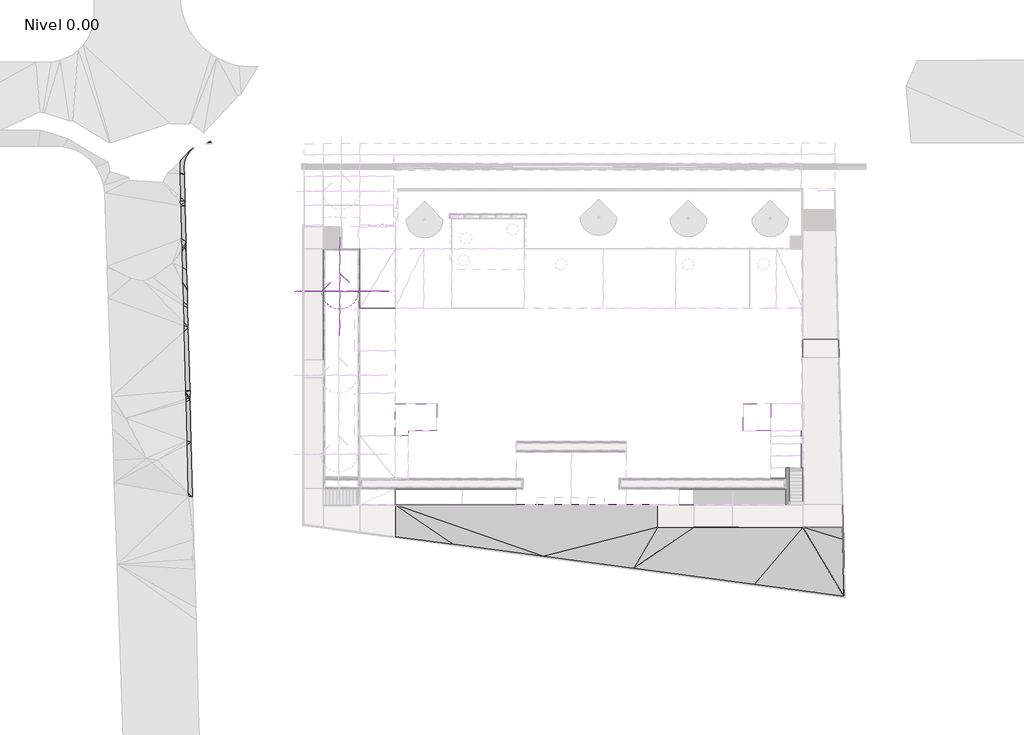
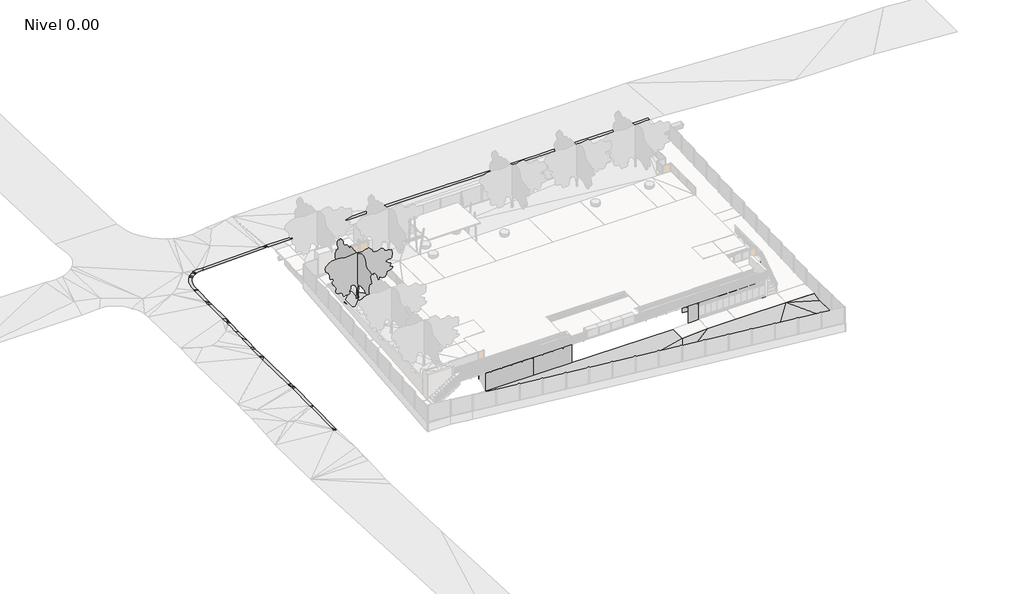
# One storey, part 8 of 10: 19 proxies, 1 geographic element.
"""IFC4 building model written with IfcOpenShell, lengths in millimetres."""

from ifc_helpers import new_model, si_unit, origin, place, context, project, spatial, triangles, transform, mapped, element, save
from components import m_rpc_tree_deciduous_31fc5fb8

model = new_model("IFC4")

# Units and contexts
model_context = context("Model", 3, world=origin())
ifc_project = project(units=[si_unit("LENGTHUNIT", "METRE", prefix="MILLI")], contexts=[model_context])

# Site, building, storey
site = spatial("IfcSite", under=ifc_project)
building = spatial("IfcBuilding", under=site)
storey = spatial("IfcBuildingStorey", under=building, Name="Nivel 0.00", Elevation=0.0)

# Proxies
placement = place(None, origin())
element("IfcBuildingElementProxy", 1, Name="Building Element Proxy", at=placement, inside=storey, context=model_context, shape_type="Tessellation", body=[
    triangles([(-22137.5720032, -3508.259697, 119.2509151), (-22137.5720032, -3508.259697, -86.1539891), (-22137.5720032, -905.6664488, 379.6572041), (-22137.5720032, -905.6664488, 76.357058), (-22137.5720032, 446.4089799, 514.9410613), (-22137.5720032, 446.4089799, 141.3746737), (-22137.5720032, 2267.6967567, 697.172707), (-22137.5720032, 2267.6967567, 296.9855787), (-22137.5720032, 2497.1635643, 720.1323521), (-22137.5720032, 2497.1635643, 305.5340758), (-22137.5720032, 2800.6900955, 750.5021553), (-22137.5720032, 2800.6900955, 333.9799049), (-22137.5720032, 5786.4485458, 1049.246493), (-22137.5720032, 5786.4485458, 593.9467767)], [[1, 4, 2], [1, 3, 4], [3, 6, 4], [3, 5, 6], [5, 8, 6], [5, 7, 8], [7, 10, 8], [7, 9, 10], [9, 12, 10], [9, 11, 12], [11, 14, 12], [11, 13, 14]], closed=False),
    triangles([(-22137.5720032, -3508.259697, 119.2509151), (-22137.5720032, -3508.259697, -86.1539891), (-22137.5720032, -905.6664488, 379.6572041), (-22137.5720032, -905.6664488, 76.357058), (-22137.5720032, 446.4089799, 514.9410613), (-22137.5720032, 446.4089799, 141.3746737), (-22137.5720032, 2267.6967567, 697.172707), (-22137.5720032, 2267.6967567, 296.9855787), (-22137.5720032, 2497.1635643, 720.1323521), (-22137.5720032, 2497.1635643, 305.5340758), (-22137.5720032, 2800.6900955, 750.5021553), (-22137.5720032, 2800.6900955, 333.9799049), (-22137.5720032, 5786.4485458, 1049.246493), (-22137.5720032, 5786.4485458, 593.9467767)], [[1, 4, 2], [1, 3, 4], [3, 6, 4], [3, 5, 6], [5, 8, 6], [5, 7, 8], [7, 10, 8], [7, 9, 10], [9, 12, 10], [9, 11, 12], [11, 14, 12], [11, 13, 14]], closed=False),
    triangles([(-22137.5720032, 5786.4921478, 1049.2509258), (-23758.2800537, 5786.4921478, 1049.2509258), (-23758.2800537, -3508.259697, 119.2509151), (-22137.5720032, -3508.259697, 119.2509151)], [[2, 3, 1], [4, 1, 3]], closed=False),
])
element("IfcBuildingElementProxy", 2, Name="Building Element Proxy", at=placement, inside=storey, context=model_context, shape_type="Tessellation", body=[
    triangles([(-10487.4726471, -14354.5645111, 1349.9821335), (-10487.4726471, -14354.5645111, -708.8708302), (-10859.558075, -14354.5645111, 1349.9821335), (-10859.558075, -14354.5645111, -708.8708302), (-12842.4986664, -14354.5645111, 1349.9821335), (-12842.4986664, -14354.5645111, -291.2762252), (-13097.231955, -14354.5645111, 1349.9821335), (-13097.231955, -14354.5645111, -405.7781387), (-14168.7026001, -14354.5645111, 1349.9821335), (-14168.7026001, -14354.5645111, -166.0200989), (-15946.7963928, -14354.5645111, 1349.9821335), (-15946.7963928, -14354.5645111, -144.749177), (-16105.5192627, -14354.5645111, 1349.9821335), (-16105.5192627, -14354.5645111, -149.0310741), (-16105.5192627, -14702.1095764, 1355.3350044), (-16105.5192627, -14702.1095764, -166.0200989), (-16105.5192627, -14715.8006012, 1355.5458927), (-16105.5192627, -14715.8006012, -166.0200989), (-16105.5192627, -14732.9344391, 1355.8098301), (-16105.5192627, -14732.9344391, -166.0200989), (-16105.5192627, -15653.0782745, 1369.9820755), (-16105.5192627, -15653.0782745, -850.00473), (-15529.8718414, -15653.0782745, 1369.9820755), (-15529.8718414, -15653.0782745, -900.0000069), (-14652.3102905, -15653.0782745, 1369.9820755), (-14652.3102905, -15653.0782745, -900.0000069), (-13764.4493683, -15653.0782745, 1369.9820755), (-13764.4493683, -15653.0782745, -900.0000069), (-12715.0087738, -15653.0782745, 1369.9820755), (-12715.0087738, -15653.0782745, -900.0000069), (-10487.4726471, -15653.0782745, 1369.9820755), (-10487.4726471, -15653.0782745, -900.0000069)], [[1, 4, 2], [1, 3, 4], [3, 6, 4], [3, 5, 6], [5, 8, 6], [5, 7, 8], [7, 10, 8], [7, 9, 10], [9, 12, 10], [9, 11, 12], [11, 14, 12], [11, 13, 14], [13, 16, 14], [13, 15, 16], [15, 18, 16], [15, 17, 18], [17, 20, 18], [17, 19, 20], [19, 22, 20], [19, 21, 22], [21, 24, 22], [21, 23, 24], [23, 26, 24], [23, 25, 26], [25, 28, 26], [25, 27, 28], [27, 30, 28], [27, 29, 30], [29, 32, 30], [29, 31, 32]], closed=False),
    triangles([(-10487.4726471, -14354.5645111, 1349.9821335), (-10487.4726471, -14354.5645111, -708.8708302), (-10859.558075, -14354.5645111, 1349.9821335), (-10859.558075, -14354.5645111, -708.8708302), (-12842.4986664, -14354.5645111, 1349.9821335), (-12842.4986664, -14354.5645111, -291.2762252), (-13097.231955, -14354.5645111, 1349.9821335), (-13097.231955, -14354.5645111, -405.7781387), (-14168.7026001, -14354.5645111, 1349.9821335), (-14168.7026001, -14354.5645111, -166.0200989), (-15946.7963928, -14354.5645111, 1349.9821335), (-15946.7963928, -14354.5645111, -144.749177), (-16105.5192627, -14354.5645111, 1349.9821335), (-16105.5192627, -14354.5645111, -149.0310741), (-16105.5192627, -14702.1095764, 1355.3350044), (-16105.5192627, -14702.1095764, -166.0200989), (-16105.5192627, -14715.8006012, 1355.5458927), (-16105.5192627, -14715.8006012, -166.0200989), (-16105.5192627, -14732.9344391, 1355.8098301), (-16105.5192627, -14732.9344391, -166.0200989), (-16105.5192627, -15653.0782745, 1369.9820755), (-16105.5192627, -15653.0782745, -850.00473), (-15529.8718414, -15653.0782745, 1369.9820755), (-15529.8718414, -15653.0782745, -900.0000069), (-14652.3102905, -15653.0782745, 1369.9820755), (-14652.3102905, -15653.0782745, -900.0000069), (-13764.4493683, -15653.0782745, 1369.9820755), (-13764.4493683, -15653.0782745, -900.0000069), (-12715.0087738, -15653.0782745, 1369.9820755), (-12715.0087738, -15653.0782745, -900.0000069), (-10487.4726471, -15653.0782745, 1369.9820755), (-10487.4726471, -15653.0782745, -900.0000069)], [[1, 4, 2], [1, 3, 4], [3, 6, 4], [3, 5, 6], [5, 8, 6], [5, 7, 8], [7, 10, 8], [7, 9, 10], [9, 12, 10], [9, 11, 12], [11, 14, 12], [11, 13, 14], [13, 16, 14], [13, 15, 16], [15, 18, 16], [15, 17, 18], [17, 20, 18], [17, 19, 20], [19, 22, 20], [19, 21, 22], [21, 24, 22], [21, 23, 24], [23, 26, 24], [23, 25, 26], [25, 28, 26], [25, 27, 28], [27, 30, 28], [27, 29, 30], [29, 32, 30], [29, 31, 32]], closed=False),
    triangles([(-10487.4726471, -14354.5645111, 1349.9821335), (-16105.5192627, -14354.5645111, 1349.9821335), (-16105.5192627, -15653.0782745, 1369.9820755), (-10487.4726471, -15653.0782745, 1369.9820755)], [[2, 3, 4], [4, 1, 2]], closed=False),
])
element("IfcBuildingElementProxy", 3, Name="Building Element Proxy", at=placement, inside=storey, context=model_context, shape_type="Tessellation", body=[
    triangles([(-10487.4726471, -15653.0782745, 1369.9820755), (-10487.4726471, -15653.0782745, -900.0000069), (-8952.5465698, -15653.0782745, 1369.9820755), (-8952.5465698, -15653.0782745, -900.0000069), (-8559.6159027, -15653.0782745, 1369.9820755), (-8559.6159027, -15653.0782745, -865.2527092), (-7664.4903076, -15653.0782745, 1369.9820755), (-7664.4903076, -15653.0782745, -900.0000069), (-6552.0779755, -15653.0782745, 1369.9820755), (-6552.0779755, -15653.0782745, -900.0000069), (-5969.7251495, -15653.0782745, 1369.9820755), (-5969.7251495, -15653.0782745, -900.0000069)], [[1, 4, 2], [1, 3, 4], [3, 6, 4], [3, 5, 6], [5, 8, 6], [5, 7, 8], [7, 10, 8], [7, 9, 10], [9, 12, 10], [9, 11, 12]], closed=False),
    triangles([(-10487.4726471, -14354.5645111, 1349.9821335), (-10487.4726471, -14354.5645111, -708.8708302), (-10451.6097198, -14354.5645111, 1349.9821335), (-10451.6097198, -14354.5645111, -708.8708302), (-9718.3073868, -14354.5645111, 1349.9821335), (-9718.3073868, -14354.5645111, -677.5093723), (-9627.9809235, -14354.5645111, 1349.9821335), (-9627.9809235, -14354.5645111, -666.0201027), (-8884.8239594, -14354.5645111, 1349.9821335), (-8884.8239594, -14354.5645111, -368.3865621), (-8453.6671371, -14354.5645111, 1349.9821335), (-8453.6671371, -14354.5645111, -371.3625069), (-7304.015799, -14354.5645111, 1349.9821335), (-7304.015799, -14354.5645111, -526.0554265), (-5969.7251495, -14354.5645111, 1349.9821335), (-5969.7251495, -14354.5645111, -759.8179384), (-5969.7251495, -14354.6621796, 1349.9835869), (-5969.7251495, -14354.6621796, -759.838286)], [[1, 4, 2], [1, 3, 4], [3, 6, 4], [3, 5, 6], [5, 8, 6], [5, 7, 8], [7, 10, 8], [7, 9, 10], [9, 12, 10], [9, 11, 12], [11, 14, 12], [11, 13, 14], [13, 16, 14], [13, 15, 16], [15, 18, 16], [15, 17, 18]], closed=False),
    triangles([(-5969.7251495, -14354.6621796, 1349.9835869), (-5969.7251495, -14354.6621796, -759.838286), (-5969.7251495, -14354.5645111, 1349.9821335), (-5969.7251495, -14354.5645111, -759.8179384)], [[1, 4, 2], [1, 3, 4]], closed=False),
    triangles([(-10487.4726471, -15653.0782745, 1369.9820755), (-10487.4726471, -15653.0782745, -900.0000069), (-8952.5465698, -15653.0782745, 1369.9820755), (-8952.5465698, -15653.0782745, -900.0000069), (-8559.6159027, -15653.0782745, 1369.9820755), (-8559.6159027, -15653.0782745, -865.2527092), (-7664.4903076, -15653.0782745, 1369.9820755), (-7664.4903076, -15653.0782745, -900.0000069), (-6552.0779755, -15653.0782745, 1369.9820755), (-6552.0779755, -15653.0782745, -900.0000069), (-5969.7251495, -15653.0782745, 1369.9820755), (-5969.7251495, -15653.0782745, -900.0000069)], [[1, 4, 2], [1, 3, 4], [3, 6, 4], [3, 5, 6], [5, 8, 6], [5, 7, 8], [7, 10, 8], [7, 9, 10], [9, 12, 10], [9, 11, 12]], closed=False),
    triangles([(-5969.7251495, -14354.5645111, 1349.9821335), (-5969.7251495, -14354.5645111, -759.8179384), (-7304.015799, -14354.5645111, 1349.9821335), (-7304.015799, -14354.5645111, -526.0554265), (-8453.6671371, -14354.5645111, 1349.9821335), (-8453.6671371, -14354.5645111, -371.3625069), (-8884.8239594, -14354.5645111, 1349.9821335), (-8884.8239594, -14354.5645111, -368.3865621), (-9627.9809235, -14354.5645111, 1349.9821335), (-9627.9809235, -14354.5645111, -666.0201027), (-9718.3073868, -14354.5645111, 1349.9821335), (-9718.3073868, -14354.5645111, -677.5093723), (-10451.6097198, -14354.5645111, 1349.9821335), (-10451.6097198, -14354.5645111, -708.8708302), (-10487.4726471, -14354.5645111, 1349.9821335), (-10487.4726471, -14354.5645111, -708.8708302)], [[1, 4, 2], [1, 3, 4], [3, 6, 4], [3, 5, 6], [5, 8, 6], [5, 7, 8], [7, 10, 8], [7, 9, 10], [9, 12, 10], [9, 11, 12], [11, 14, 12], [11, 13, 14], [13, 16, 14], [13, 15, 16]], closed=False),
    triangles([(-5969.7251495, -14354.5645111, 1349.9821335), (-10487.4726471, -14354.5645111, 1349.9821335), (-10487.4726471, -15653.0782745, 1369.9820755), (-5969.7251495, -15653.0782745, 1369.9820755)], [[2, 3, 4], [4, 1, 2]], closed=False),
])
element("IfcBuildingElementProxy", 4, Name="Building Element Proxy", at=placement, inside=storey, context=model_context, shape_type="Tessellation", body=[
    triangles([(7686.8261536, -15653.0154877, 1369.9820755), (7686.8261536, -15653.0154877, -889.3929508), (8587.2653778, -15653.0154877, 1369.9820755), (8587.2653778, -15653.0154877, -787.3379883), (8877.6092834, -15653.0154877, 1369.9820755), (8877.6092834, -15653.0154877, -812.8557621)], [[1, 4, 2], [1, 3, 4], [3, 6, 4], [3, 5, 6]], closed=False),
    triangles([(12146.1748901, -14354.6621796, 1349.9821335), (12146.1748901, -14354.6621796, -812.3078304), (11887.0825653, -14354.6621796, 1349.9821335), (11887.0825653, -14354.6621796, -749.0817478), (10692.206662, -14354.6621796, 1349.9821335), (10692.206662, -14354.6621796, -530.9046218), (7852.3974426, -14354.6621796, 1349.9821335), (7852.3974426, -14354.6621796, -267.955919), (7686.8261536, -14354.6621796, 1349.9821335), (7686.8261536, -14354.6621796, -258.4661276)], [[1, 4, 2], [1, 3, 4], [3, 6, 4], [3, 5, 6], [5, 8, 6], [5, 7, 8], [7, 10, 8], [7, 9, 10]], closed=False),
    triangles([(7686.8261536, -15653.0154877, 1369.9820755), (7686.8261536, -15653.0154877, -889.3929508), (8587.2653778, -15653.0154877, 1369.9820755), (8587.2653778, -15653.0154877, -787.3379883), (8877.6092834, -15653.0154877, 1369.9820755), (8877.6092834, -15653.0154877, -812.8557621)], [[1, 4, 2], [1, 3, 4], [3, 6, 4], [3, 5, 6]], closed=False),
    triangles([(12146.1748901, -14354.6621796, 1349.9821335), (12146.1748901, -14354.6621796, -812.3078304), (11887.0825653, -14354.6621796, 1349.9821335), (11887.0825653, -14354.6621796, -749.0817478), (10692.206662, -14354.6621796, 1349.9821335), (10692.206662, -14354.6621796, -530.9046218), (7852.3974426, -14354.6621796, 1349.9821335), (7852.3974426, -14354.6621796, -267.955919), (7686.8261536, -14354.6621796, 1349.9821335), (7686.8261536, -14354.6621796, -258.4661276)], [[1, 4, 2], [1, 3, 4], [3, 6, 4], [3, 5, 6], [5, 8, 6], [5, 7, 8], [7, 10, 8], [7, 9, 10]], closed=False),
    triangles([(12146.1748901, -14354.6621796, 1349.9821335), (7686.8261536, -14354.6621796, 1349.9821335), (7686.8261536, -15653.0154877, 1369.9820755), (12146.1748901, -15653.0154877, 1369.9820755)], [[2, 3, 4], [4, 1, 2]], closed=False),
])
element("IfcBuildingElementProxy", 5, Name="Building Element Proxy", at=placement, inside=storey, context=model_context, shape_type="Tessellation", body=[
    triangles([(12146.1748901, -14354.6621796, 1349.9821335), (12146.1748901, -14354.6621796, -812.3078304), (13551.349585, -14354.6621796, 1349.9821335), (13551.349585, -14354.6621796, -1155.2118999), (13580.1129456, -14354.6621796, 1349.9821335), (13580.1129456, -14354.6621796, -1159.7034863), (13596.8933167, -14354.6621796, 1349.9821335), (13596.8933167, -14354.6621796, -1162.0368467), (13631.7958374, -14354.6621796, 1349.9821335), (13631.7958374, -14354.6621796, -1166.0201065), (16605.5236267, -14354.6621796, 1349.9821335), (16605.5236267, -14354.6621796, -1239.7416241), (16605.5236267, -15653.0154877, 1369.9820755), (16605.5236267, -15653.0154877, -1347.4879543)], [[1, 4, 2], [1, 3, 4], [3, 6, 4], [3, 5, 6], [5, 8, 6], [5, 7, 8], [7, 10, 8], [7, 9, 10], [9, 12, 10], [9, 11, 12], [11, 14, 12], [11, 13, 14]], closed=False),
    triangles([(16605.5236267, -15653.0154877, 1369.9820755), (16605.5236267, -15653.0154877, -1347.4879543), (16605.5236267, -14354.6621796, 1349.9821335), (16605.5236267, -14354.6621796, -1239.7416241)], [[1, 4, 2], [1, 3, 4]], closed=False),
    triangles([(16605.5236267, -14354.6621796, 1349.9821335), (16605.5236267, -14354.6621796, -1239.7416241), (13631.7958374, -14354.6621796, 1349.9821335), (13631.7958374, -14354.6621796, -1166.0201065), (13596.8933167, -14354.6621796, 1349.9821335), (13596.8933167, -14354.6621796, -1162.0368467), (13580.1129456, -14354.6621796, 1349.9821335), (13580.1129456, -14354.6621796, -1159.7034863), (13551.349585, -14354.6621796, 1349.9821335), (13551.349585, -14354.6621796, -1155.2118999), (12146.1748901, -14354.6621796, 1349.9821335), (12146.1748901, -14354.6621796, -812.3078304)], [[1, 4, 2], [1, 3, 4], [3, 6, 4], [3, 5, 6], [5, 8, 6], [5, 7, 8], [7, 10, 8], [7, 9, 10], [9, 12, 10], [9, 11, 12]], closed=False),
    triangles([(16605.5236267, -14354.6621796, 1349.9821335), (12146.1748901, -14354.6621796, 1349.9821335), (12146.1748901, -15653.0154877, 1369.9820755), (16605.5236267, -15653.0154877, 1369.9820755)], [[2, 3, 4], [4, 1, 2]], closed=False),
])
element("IfcBuildingElementProxy", 6, Name="Building Element Proxy", at=placement, inside=storey, context=model_context, shape_type="Tessellation", body=[
    triangles([(21420.8552856, -17533.633255, -840.0192204), (21420.8552856, -17533.633255, -1683.9922691), (21410.8977539, -17147.5486816, -833.860076), (21410.8977539, -17147.5486816, -1666.0201103), (21374.4162598, -15732.9292145, -811.2930668), (21374.4162598, -15732.9292145, -1536.5242355), (21372.3582458, -15653.0782745, -810.019162), (21372.3582458, -15653.0782745, -1525.9484276)], [[1, 4, 2], [1, 3, 4], [3, 6, 4], [3, 5, 6], [5, 8, 6], [5, 7, 8]], closed=False),
    triangles([(18005.5393341, -17533.633255, -840.0192204), (18005.5393341, -17533.633255, -1538.2623562), (18348.2800415, -17533.633255, -840.0192204), (18348.2800415, -17533.633255, -1546.7592213), (20298.7098267, -17533.633255, -840.0192204), (20298.7098267, -17533.633255, -1656.9116547), (20528.6492798, -17533.633255, -840.0192204), (20528.6492798, -17533.633255, -1666.0201103), (21320.8218567, -17533.633255, -840.0192204), (21320.8218567, -17533.633255, -1681.9772758)], [[1, 4, 2], [1, 3, 4], [3, 6, 4], [3, 5, 6], [5, 8, 6], [5, 7, 8], [7, 10, 8], [7, 9, 10]], closed=False),
    triangles([(21420.8552856, -17533.633255, -840.0192204), (21420.8552856, -17533.633255, -1683.9922691), (21410.8977539, -17147.5486816, -833.860076), (21410.8977539, -17147.5486816, -1666.0201103), (21374.4162598, -15732.9292145, -811.2930668), (21374.4162598, -15732.9292145, -1536.5242355), (21372.3582458, -15653.0782745, -810.019162), (21372.3582458, -15653.0782745, -1525.9484276)], [[1, 4, 2], [1, 3, 4], [3, 6, 4], [3, 5, 6], [5, 8, 6], [5, 7, 8]], closed=False),
    triangles([(18005.5393341, -17533.633255, -840.0192204), (18005.5393341, -17533.633255, -1538.2623562), (18348.2800415, -17533.633255, -840.0192204), (18348.2800415, -17533.633255, -1546.7592213), (20298.7098267, -17533.633255, -840.0192204), (20298.7098267, -17533.633255, -1656.9116547), (20528.6492798, -17533.633255, -840.0192204), (20528.6492798, -17533.633255, -1666.0201103), (21320.8218567, -17533.633255, -840.0192204), (21320.8218567, -17533.633255, -1681.9772758)], [[1, 4, 2], [1, 3, 4], [3, 6, 4], [3, 5, 6], [5, 8, 6], [5, 7, 8], [7, 10, 8], [7, 9, 10]], closed=False),
    triangles([(18005.5393341, -15653.0782745, -810.019162), (18005.5393341, -17533.633255, -840.0192204), (21420.8552856, -17533.633255, -840.0192204), (21372.3582458, -15653.0782745, -810.019162)], [[1, 2, 4], [3, 4, 2]], closed=False),
])
element("IfcBuildingElementProxy", 7, Name="Building Element Proxy", at=placement, inside=storey, context=model_context, shape_type="Tessellation", body=[
    triangles([(21014.9265747, -1793.0786339, 269.8403606), (21014.9265747, -1793.0786339, 269.4469799), (19880.7399902, -1793.0786339, 269.8403606), (19880.7399902, -1793.0786339, 269.4469799), (18077.2093781, -1793.0786339, 269.8403606), (18077.2093781, -1793.0786339, 269.4469799), (18005.5253815, -1793.0786339, 269.8403606), (18005.5253815, -1793.0786339, 269.4469799)], [[1, 4, 2], [1, 3, 4], [3, 6, 4], [3, 5, 6], [5, 8, 6], [5, 7, 8]], closed=False),
    triangles([(18005.5253815, -1793.0786339, 269.8403606), (18005.5253815, -1793.0786339, 219.3381017), (18005.5253815, -3293.0786453, 269.8403606), (18005.5253815, -3293.0786453, 150.7614826)], [[1, 4, 2], [1, 3, 4]], closed=False),
    triangles([(21014.9265747, -1793.0786339, 269.8403606), (21014.9265747, -1793.0786339, 214.6862781), (21053.6079346, -3293.0786453, 269.8403606), (21053.6079346, -3293.0786453, 143.0949902)], [[1, 4, 2], [1, 3, 4]], closed=False),
    triangles([(21053.6079346, -3293.0786453, 269.8403606), (21053.6079346, -3293.0786453, 143.0949902), (21014.9265747, -1793.0786339, 269.8403606), (21014.9265747, -1793.0786339, 214.6862781)], [[1, 4, 2], [1, 3, 4]], closed=False),
    triangles([(18005.5253815, -1793.0786339, 269.8403606), (18005.5253815, -1793.0786339, 219.3381017), (18005.5253815, -3293.0786453, 269.8403606), (18005.5253815, -3293.0786453, 150.7614826)], [[1, 4, 2], [1, 3, 4]], closed=False),
    triangles([(21014.9265747, -1793.0786339, 269.8403606), (21014.9265747, -1793.0786339, 269.4469799), (18005.5253815, -1793.0786339, 269.8403606), (18005.5253815, -1793.0786339, 269.4469799)], [[1, 4, 2], [1, 3, 4]], closed=False),
    triangles([(21014.9265747, -1793.0786339, 269.8403606), (18005.5253815, -1793.0786339, 269.8403606), (18005.5253815, -3293.0786453, 269.8403606), (21053.6079346, -3293.0786453, 269.8403606)], [[2, 3, 1], [4, 1, 3]], closed=False),
])
element("IfcBuildingElementProxy", 8, Name="Building Element Proxy", at=placement, inside=storey, context=model_context, shape_type="Tessellation", body=[
    triangles([(-19057.5704681, 5786.4921478, 1349.9972488), (-19057.5704681, 5786.4921478, 552.9142522), (-19057.5704681, 5226.675737, 1346.6458546), (-19057.5704681, 5226.675737, 531.3664759), (-19057.5704681, 775.3352325, 1319.9971905), (-19057.5704681, 775.3352325, 334.0525386), (-19057.3821075, 775.6549078, 1319.9990799), (-19057.3821075, 775.6549078, 334.0703427)], [[1, 4, 2], [1, 3, 4], [3, 6, 4], [3, 5, 6], [5, 8, 6], [5, 7, 8]], closed=False),
    triangles([(-16105.2367218, 5786.4921478, 1349.9972488), (-16105.2367218, 5786.4921478, 615.0475599), (-16105.3192749, 5786.4921478, 1349.9972488), (-16105.3192749, 5786.4921478, 615.0458158)], [[1, 4, 2], [1, 3, 4]], closed=False),
    triangles([(-19057.5704681, 5786.4921478, 1349.9972488), (-19057.5704681, 5786.4921478, 552.9142522), (-19057.5704681, 5226.675737, 1346.6458546), (-19057.5704681, 5226.675737, 531.3664759), (-19057.5704681, 775.3352325, 1319.9971905), (-19057.5704681, 775.3352325, 334.0525386), (-19057.3821075, 775.6549078, 1319.9990799), (-19057.3821075, 775.6549078, 334.0703427)], [[1, 4, 2], [1, 3, 4], [3, 6, 4], [3, 5, 6], [5, 8, 6], [5, 7, 8]], closed=False),
    triangles([(-16105.2367218, 5786.4921478, 1349.9972488), (-16105.2367218, 5786.4921478, 615.0475599), (-16105.3192749, 5786.4921478, 1349.9972488), (-16105.3192749, 5786.4921478, 615.0458158)], [[1, 4, 2], [1, 3, 4]], closed=False),
    triangles([(-16105.2367218, 5786.4921478, 1349.9972488), (-19057.5704681, 5786.4921478, 1349.9972488), (-19057.5704681, 775.3352325, 1319.9971905)], [[2, 3, 1]], closed=False),
])
element("IfcBuildingElementProxy", 9, Name="Building Element Proxy", at=placement, inside=storey, context=model_context, shape_type="Tessellation", body=[
    triangles([(-16105.4704285, 775.6549078, 1349.9921619), (-16105.4704285, 775.6549078, 407.8792096), (-16115.8721191, 775.6549078, 1349.8864998), (-16115.8721191, 775.6549078, 407.3703017), (-17484.6281067, 775.6549078, 1335.9767384), (-17484.6281067, 775.6549078, 364.9277616), (-17783.0436127, 775.6549078, 1332.94422), (-17783.0436127, 775.6549078, 358.6204067), (-19057.3821075, 775.6549078, 1319.993993), (-19057.3821075, 775.6549078, 334.0703427)], [[1, 4, 2], [1, 3, 4], [3, 6, 4], [3, 5, 6], [5, 8, 6], [5, 7, 8], [7, 10, 8], [7, 9, 10]], closed=False),
    triangles([(-19057.3821075, 775.6549078, 1319.993993), (-19057.3821075, 775.6549078, 334.0703427), (-17783.0436127, 775.6549078, 1332.94422), (-17783.0436127, 775.6549078, 358.6204067), (-17484.6281067, 775.6549078, 1335.9767384), (-17484.6281067, 775.6549078, 364.9277616), (-16115.8721191, 775.6549078, 1349.8864998), (-16115.8721191, 775.6549078, 407.3703017), (-16105.4704285, 775.6549078, 1349.9921619), (-16105.4704285, 775.6549078, 407.8792096)], [[1, 4, 2], [1, 3, 4], [3, 6, 4], [3, 5, 6], [5, 8, 6], [5, 7, 8], [7, 10, 8], [7, 9, 10]], closed=False),
    triangles([(-16105.2367218, 5786.4921478, 1349.9944874), (-19057.3821075, 775.6549078, 1319.993993), (-16105.2367218, 775.6549078, 1349.9944874)], [[2, 3, 1]], closed=False),
])
element("IfcBuildingElementProxy", 10, Name="Building Element Proxy", at=placement, inside=storey, context=model_context, shape_type="Tessellation", body=[
    triangles([(-12635.2392242, -7204.6648865, 1449.9376602), (-16105.4704285, -7204.6648865, 1349.9376595), (-16105.4704285, -9897.1644928, 1349.9376595), (-15005.2387482, -9897.1644928, 1381.6424103), (-15005.2387482, -9454.6647583, 1381.6424103), (-12635.2392242, -9454.6647583, 1449.9376602)], [[5, 2, 3], [5, 3, 4], [5, 6, 1], [5, 1, 2]], closed=False),
])
element("IfcBuildingElementProxy", 11, Name="Building Element Proxy", at=placement, inside=storey, context=model_context, shape_type="Tessellation", body=[
    triangles([(16605.5247894, -12573.0790649, 1369.840369), (16605.5247894, -12573.0790649, 1369.9926853), (16090.5992432, -12573.0790649, 1369.840369), (16090.5992432, -12573.0790649, 1369.9926853), (15371.4629059, -12573.0790649, 1369.840369), (15371.4629059, -12573.0790649, 1369.9926853), (15325.5017578, -12573.0790649, 1369.840369), (15325.5017578, -12573.0790649, 1369.9926853)], [[1, 4, 2], [1, 3, 4], [3, 6, 4], [3, 5, 6], [5, 8, 6], [5, 7, 8]], closed=False),
    triangles([(15325.5017578, -13454.6647888, 1369.840369), (15325.5017578, -13454.6647888, -1015.4904865), (16605.5247894, -13454.6647888, 1369.840369), (16605.5247894, -13454.6647888, -1161.5708868), (16605.5247894, -12573.0790649, 1369.840369), (16605.5247894, -12573.0790649, -824.7835224)], [[1, 4, 2], [1, 3, 4], [3, 6, 4], [3, 5, 6]], closed=False),
    triangles([(15325.5017578, -13454.6647888, 1369.840369), (15325.5017578, -13454.6647888, -1015.4904865), (16605.5247894, -13454.6647888, 1369.840369), (16605.5247894, -13454.6647888, -1161.5708868), (16605.5247894, -12573.0790649, 1369.840369), (16605.5247894, -12573.0790649, -824.7835224)], [[1, 4, 2], [1, 3, 4], [3, 6, 4], [3, 5, 6]], closed=False),
    triangles([(16605.5247894, -12573.0790649, 1369.840369), (16605.5247894, -12573.0790649, 1369.9926853), (15325.5017578, -12573.0790649, 1369.840369), (15325.5017578, -12573.0790649, 1369.9926853)], [[1, 4, 2], [1, 3, 4]], closed=False),
    triangles([(15325.5017578, -13454.6647888, 1369.840369), (16605.5247894, -13454.6647888, 1369.840369), (16605.5247894, -12573.0790649, 1369.840369), (15325.5017578, -12573.0790649, 1369.840369)], [[4, 1, 3], [2, 3, 1]], closed=False),
])
element("IfcBuildingElementProxy", 12, Name="Building Element Proxy", at=placement, inside=storey, context=model_context, shape_type="Tessellation", body=[
    triangles([(16905.5250824, -12573.0790649, 1369.9926853), (16905.5250824, -12573.0790649, -859.0204588), (16605.5247894, -12573.0790649, 1369.9926853), (16605.5247894, -12573.0790649, -824.7835224)], [[1, 4, 2], [1, 3, 4]], closed=False),
    triangles([(17905.5256714, -10542.9332153, 1349.992598), (17905.5256714, -10542.9332153, -249.9978218), (17905.5256714, -10823.5207397, 1352.7568188), (17905.5256714, -10823.5207397, -327.5838927), (17905.5256714, -11978.3572266, 1364.1337406), (17905.5256714, -11978.3572266, -794.9766209), (17905.5256714, -12568.9746643, 1369.9521355), (17905.5256714, -12568.9746643, -977.5021076)], [[1, 4, 2], [1, 3, 4], [3, 6, 4], [3, 5, 6], [5, 8, 6], [5, 7, 8]], closed=False),
    triangles([(16605.5247894, -12573.0790649, 1369.9926853), (16605.5247894, -12573.0790649, -824.7835224), (16905.5250824, -12573.0790649, 1369.9926853), (16905.5250824, -12573.0790649, -859.0204588)], [[1, 4, 2], [1, 3, 4]], closed=False),
    triangles([(17905.5256714, -12568.9746643, 1369.9521355), (17905.5256714, -12568.9746643, -977.5021076), (17905.5256714, -11978.3572266, 1364.1337406), (17905.5256714, -11978.3572266, -794.9766209), (17905.5256714, -10823.5207397, 1352.7568188), (17905.5256714, -10823.5207397, -327.5838927), (17905.5256714, -10542.9332153, 1349.992598), (17905.5256714, -10542.9332153, -249.9978218)], [[1, 4, 2], [1, 3, 4], [3, 6, 4], [3, 5, 6], [5, 8, 6], [5, 7, 8]], closed=False),
    triangles([(17905.5256714, -12573.0790649, 1369.9926853), (17905.5256714, -10542.9332153, 1349.992598), (15325.5017578, -10542.9332153, 1349.992598), (15325.5017578, -12573.0790649, 1369.9926853)], [[3, 4, 1], [1, 2, 3]], closed=False),
])
element("IfcBuildingElementProxy", 13, Name="Building Element Proxy", at=placement, inside=storey, context=model_context, shape_type="Tessellation", body=[
    triangles([(17905.5256714, -9942.9326294, 1349.8741459), (17905.5256714, -9942.9326294, -152.4740507), (17905.5256714, -9454.6967331, 1369.8740879), (17905.5256714, -9454.6967331, -130.1529659)], [[1, 4, 2], [1, 3, 4]], closed=False),
    triangles([(17905.5256714, -9942.9326294, 1349.8741459), (17905.5256714, -9942.9326294, -152.4740507), (17905.5256714, -9454.6967331, 1369.8740879), (17905.5256714, -9454.6967331, -130.1529659)], [[1, 4, 2], [1, 3, 4]], closed=False),
    triangles([(15325.5017578, -9942.9326294, 1349.8741459), (17905.5256714, -9942.9326294, 1349.8741459), (17905.5256714, -9454.6967331, 1369.8740879), (15325.5017578, -9454.6967331, 1369.8740879)], [[4, 1, 2], [2, 3, 4]], closed=False),
])
element("IfcBuildingElementProxy", 14, Name="Building Element Proxy", at=placement, inside=storey, context=model_context, shape_type="Tessellation", body=[
    triangles([(13022.2725769, -7204.6648865, 1449.9094643), (13022.2725769, -9454.6967331, 1449.9094643), (15325.5017578, -9454.6967331, 1369.9094055), (15325.5017578, -7204.6648865, 1369.9094055)], [[1, 2, 3], [3, 4, 1]], closed=False),
])
element("IfcBuildingElementProxy", 15, Name="Building Element Proxy", at=placement, inside=storey, context=model_context, shape_type="Tessellation", body=[
    triangles([(17905.5256714, -12568.9746643, 980.7242947), (17905.5256714, -12568.9746643, -977.5021076), (18005.5253815, -12568.9746643, 980.7242947), (18005.5253815, -12568.9746643, -992.1592072), (18005.5253815, -12694.6355988, 899.1940968), (18005.5253815, -12694.6355988, -1030.9937553), (18005.5253815, -13048.0849548, 669.8723385), (18005.5253815, -13048.0849548, -1166.0201065), (18005.5253815, -15368.9677094, -835.9398909), (18005.5253815, -15368.9677094, -1358.6230305), (18005.5253815, -15373.3837189, -838.8057043), (18005.5253815, -15373.3837189, -1358.9895779)], [[1, 4, 2], [1, 3, 4], [3, 6, 4], [3, 5, 6], [5, 8, 6], [5, 7, 8], [7, 10, 8], [7, 9, 10], [9, 12, 10], [9, 11, 12]], closed=False),
    triangles([(16905.5250824, -15373.3837189, -838.8057043), (16905.5250824, -15373.3837189, -1331.7195854), (16905.5250824, -15368.9677094, -835.9398909), (16905.5250824, -15368.9677094, -1331.353038), (16905.5250824, -13376.6916412, 456.6692184), (16905.5250824, -13376.6916412, -1166.0201065), (16905.5250824, -12573.0790649, 978.0615211), (16905.5250824, -12573.0790649, -859.0204588)], [[1, 4, 2], [1, 3, 4], [3, 6, 4], [3, 5, 6], [5, 8, 6], [5, 7, 8]], closed=False),
    triangles([(16905.5250824, -15373.3837189, -838.8057043), (16905.5250824, -15373.3837189, -1331.7195854), (16905.5250824, -15368.9677094, -835.9398909), (16905.5250824, -15368.9677094, -1331.353038), (16905.5250824, -13376.6916412, 456.6692184), (16905.5250824, -13376.6916412, -1166.0201065), (16905.5250824, -12573.0790649, 978.0615211), (16905.5250824, -12573.0790649, -859.0204588)], [[1, 4, 2], [1, 3, 4], [3, 6, 4], [3, 5, 6], [5, 8, 6], [5, 7, 8]], closed=False),
    triangles([(17905.5256714, -12568.9746643, 980.7242947), (17905.5256714, -12568.9746643, -977.5021076), (18005.5253815, -12568.9746643, 980.7242947), (18005.5253815, -12568.9746643, -992.1592072), (18005.5253815, -12694.6355988, 899.1940968), (18005.5253815, -12694.6355988, -1030.9937553), (18005.5253815, -13048.0849548, 669.8723385), (18005.5253815, -13048.0849548, -1166.0201065), (18005.5253815, -15368.9677094, -835.9398909), (18005.5253815, -15368.9677094, -1358.6230305), (18005.5253815, -15373.3837189, -838.8057043), (18005.5253815, -15373.3837189, -1358.9895779)], [[1, 4, 2], [1, 3, 4], [3, 6, 4], [3, 5, 6], [5, 8, 6], [5, 7, 8], [7, 10, 8], [7, 9, 10], [9, 12, 10], [9, 11, 12]], closed=False),
    triangles([(18005.5253815, -15368.9677094, -835.9398909), (18005.5253815, -12568.9746643, 980.7242947), (16905.5250824, -12568.9746643, 980.7242947), (16905.5250824, -15368.9677094, -835.9398909), (16905.5250824, -15373.3837189, -838.8057043), (18005.5253815, -15373.3837189, -838.8057043)], [[4, 5, 1], [3, 4, 2], [6, 1, 5], [1, 2, 4]], closed=False),
])
element("IfcBuildingElementProxy", 16, Name="Building Element Proxy", at=placement, inside=storey, context=model_context, shape_type="Tessellation", body=[
    triangles([(21343.9181213, -18429.2727722, -1999.2746235), (21343.9181213, -18429.2727722, -1956.3519527), (21443.886438, -18426.6950226, -1999.2746235), (21443.886438, -18426.6950226, -1956.3519527)], [[1, 4, 2], [1, 3, 4]], closed=False),
    triangles([(21420.8552856, -17533.633255, -1733.9405285), (21420.8552856, -17533.633255, -840.0192204), (21320.8218567, -17533.633255, -1733.1745869), (21320.8218567, -17533.633255, -840.0192204)], [[1, 4, 2], [1, 3, 4]], closed=False),
    triangles([(21320.8218567, -17533.633255, -1733.1745869), (21320.8218567, -17533.633255, -1681.9772758), (21343.9181213, -18429.2727722, -1999.2746235), (21343.9181213, -18429.2727722, -1723.6689171)], [[1, 4, 2], [1, 3, 4]], closed=False),
    triangles([(21420.8552856, -17533.633255, -1733.9405285), (21420.8552856, -17533.633255, -1683.9922691), (21443.886438, -18426.6950226, -1999.2746235), (21443.886438, -18426.6950226, -1725.5640049)], [[1, 4, 2], [1, 3, 4]], closed=False),
    triangles([(21443.886438, -18426.6950226, -1999.2746235), (21443.886438, -18426.6950226, -1725.5640049), (21420.8552856, -17533.633255, -1733.9405285), (21420.8552856, -17533.633255, -1683.9922691)], [[1, 4, 2], [1, 3, 4]], closed=False),
    triangles([(21320.8218567, -17533.633255, -1733.1745869), (21320.8218567, -17533.633255, -1681.9772758), (21343.9181213, -18429.2727722, -1999.2746235), (21343.9181213, -18429.2727722, -1723.6689171)], [[1, 4, 2], [1, 3, 4]], closed=False),
    triangles([(21343.9181213, -18429.2727722, -1999.2746235), (21343.9181213, -18429.2727722, -1956.3519527), (21443.886438, -18426.6950226, -1999.2746235), (21443.886438, -18426.6950226, -1956.3519527)], [[1, 4, 2], [1, 3, 4]], closed=False),
    triangles([(21420.8552856, -17533.633255, -1733.9405285), (21420.8552856, -17533.633255, -840.0192204), (21320.8218567, -17533.633255, -1733.1745869), (21320.8218567, -17533.633255, -840.0192204)], [[1, 4, 2], [1, 3, 4]], closed=False),
    triangles([(21420.8552856, -17533.633255, -1733.9405285), (21320.8218567, -17533.633255, -1733.1745869), (21343.9181213, -18429.2727722, -1999.2746235), (21443.886438, -18426.6950226, -1999.2746235)], [[2, 3, 1], [4, 1, 3]], closed=False),
])
element("IfcBuildingElementProxy", 17, Name="Building Element Proxy", at=placement, inside=storey, context=model_context, shape_type="Tessellation", body=[
    triangles([(21343.9181213, -18429.2727722, -1956.3519527), (21343.9181213, -18429.2727722, -1723.6689171), (21392.1244812, -20298.5400696, -1914.3718117), (21392.1244812, -20298.5400696, -1810.6826466), (21408.3397705, -20927.2575073, -1900.252034), (21408.3397705, -20927.2575073, -1837.9587433)], [[1, 4, 2], [1, 3, 4], [3, 6, 4], [3, 5, 6]], closed=False),
    triangles([(21443.886438, -18426.6950226, -1956.3519527), (21443.886438, -18426.6950226, -1725.5640049), (21499.1342285, -20569.0770447, -1908.2381744), (21499.1342285, -20569.0770447, -1825.2912025), (21508.3057617, -20924.6809204, -1900.252034), (21508.3057617, -20924.6809204, -1840.7184586)], [[1, 4, 2], [1, 3, 4], [3, 6, 4], [3, 5, 6]], closed=False),
    triangles([(21508.3057617, -20924.6809204, -1900.252034), (21508.3057617, -20924.6809204, -1840.7184586), (21499.1342285, -20569.0770447, -1908.2381744), (21499.1342285, -20569.0770447, -1825.2912025), (21443.886438, -18426.6950226, -1956.3519527), (21443.886438, -18426.6950226, -1725.5640049)], [[1, 4, 2], [1, 3, 4], [3, 6, 4], [3, 5, 6]], closed=False),
    triangles([(21343.9181213, -18429.2727722, -1956.3519527), (21343.9181213, -18429.2727722, -1723.6689171), (21392.1244812, -20298.5400696, -1914.3718117), (21392.1244812, -20298.5400696, -1810.6826466), (21408.3397705, -20927.2575073, -1900.252034), (21408.3397705, -20927.2575073, -1837.9587433)], [[1, 4, 2], [1, 3, 4], [3, 6, 4], [3, 5, 6]], closed=False),
    triangles([(21443.886438, -18426.6950226, -1956.3519527), (21343.9181213, -18429.2727722, -1956.3519527), (21408.3397705, -20927.2575073, -1900.252034), (21508.3057617, -20924.6809204, -1900.252034)], [[2, 3, 4], [4, 1, 2]], closed=False),
])
element("IfcBuildingElementProxy", 18, Name="Building Element Proxy", at=placement, inside=storey, context=model_context, shape_type="Tessellation", body=[
    triangles([(21437.5961243, -23327.9388794, -950.0000072), (21470.3615662, -23332.3107056, -950.0000072), (21320.8218567, -17533.633255, -700.0000053), (8877.6092834, -17533.9832336, -690.0000343), (5877.3982269, -17533.9832336, -900.0000069), (5877.3982269, -15673.0817047, -900.0000069), (-16105.5692596, -15653.0759491, -850.0000065), (-16105.5692596, -18320.6328918, -850.0000065), (18005.5393341, -17533.633255, -700.0000053), (12146.1748901, -17533.670462, -690.0000343), (-11259.8685242, -18966.926001, -900.0000069), (-3691.4252609, -19976.364386, -900.0000069), (3877.0177116, -20985.802771, -929.9999926), (13968.2752991, -22331.7206177, -950.0000072), (21347.4202332, -18565.0482056, -1000.0000076), (-16105.5692596, -15887.3953674, -850.0000065), (-16105.5692596, -16163.991275, -850.0000065)], [[17, 8, 11], [6, 4, 10], [11, 12, 7], [6, 5, 4], [14, 10, 4], [13, 5, 12], [16, 11, 7], [14, 9, 10], [11, 16, 17], [7, 12, 6], [9, 3, 6], [6, 12, 5], [13, 4, 5], [9, 1, 15], [1, 9, 14], [1, 2, 15], [10, 9, 6], [15, 3, 9], [4, 13, 14]], closed=False),
])
element("IfcBuildingElementProxy", 19, Name="Building Element Proxy", at=placement, inside=storey, context=model_context, shape_type="Tessellation", body=[
    triangles([(-31762.0589539, 15027.4490204, 1230.9005939), (-32230.5652405, 14980.684433, 1250.192149), (-32680.9284485, 14843.3614197, 1260.7153439), (-32698.1064697, 14834.1457031, 1260.7712997), (-32804.3581238, 14777.1387177, 1261.1170635), (-32905.8565796, 14722.6827393, 1261.4472759), (-32979.8125305, 14683.0049286, 1259.2292427), (-33095.8217285, 14620.7622162, 1255.7498039), (-33180.7235229, 14550.8455536, 1250.3023167), (-33264.3998108, 14481.936969, 1244.9331676), (-33374.0559082, 14391.6343414, 1243.7115852), (-33374.7674927, 14391.0494934, 1243.7035915), (-33459.2762878, 14321.4549042, 1245.386483), (-33535.5320984, 14228.1931549, 1244.2807365), (-33648.406604, 14090.1457672, 1242.6437725), (-33757.3115845, 13956.9527344, 1241.0645084), (-33978.4539001, 13541.2839203, 1225.3491886), (-34074.168988, 13223.3975098, 1206.6614485), (-34114.2014282, 13090.4428345, 1198.8453558), (-34130.4399719, 12921.7833618, 1185.7918648), (-34159.3242554, 12621.7749298, 1162.5727152), (-34158.8940491, 12605.1782684, 1161.1039095), (-34147.7482178, 12175.2707886, 1123.057976), (-34143.9670532, 12029.4959656, 1106.5565123), (-34093.8282532, 10095.6151703, 1020.5712811), (-34084.5357971, 9737.1451904, 992.0781075), (-34075.3735657, 9383.8394302, 942.0001322), (-34003.7825867, 6622.4835617, 845.8211191), (-33981.6002197, 5766.9096222, 833.9799088), (-33975.865686, 5545.7219604, 833.9799088), (-33967.6638611, 5229.4395218, 807.3441799), (-33941.1305969, 4206.017688, 721.1567808), (-33911.1952148, 3051.4463013, 661.0758551), (-33894.463678, 2406.0795891, 607.7459707), (-33866.8537354, 1341.147353, 519.7453102), (-33864.026001, 1232.0627323, 507.8564647), (-33858.8588745, 1032.8040373, 486.139767), (-33822.1564636, -382.8257243, 464.5683729), (-33815.0755005, -655.9107634, 430.6571071), (-33802.0646667, -1157.7830366, 414.7491028), (-33673.5329773, -6115.2232452, 333.9799049), (-33669.8866882, -6255.8867523, 333.9799049), (-33654.666687, -6842.9131302, 333.9799049), (-33650.0227844, -7022.0649857, 307.2093006), (-33565.3884155, -10286.4116638, 163.600897), (-33556.1703735, -10641.9911224, 175.4406539), (-33453.3068848, -14609.4117462, -49.7525), (-33451.2558472, -14688.5069183, -57.5533774), (-33449.8094238, -14744.2988617, -63.055944), (-33445.0166931, -14929.1259521, -110.2628827), (-33148.804541, -15006.3665863, -103.0254157), (-33047.3037598, -15032.8347382, -110.4751245), (-33045.7410645, -15033.2416901, -110.5897069), (-33042.1598877, -15034.175354, -110.9726686), (-33161.4014465, -10434.9828278, 150.080247), (-33161.4316772, -10433.8608032, 150.0429037), (-33252.8005188, -6909.7520737, 305.0790164), (-33252.8563293, -6907.6022049, 305.4002541), (-33257.6932434, -6720.9734802, 313.2337875), (-33258.8629395, -6675.8785583, 321.0116921), (-33274.0620117, -6089.6788742, 333.9799049), (-33274.2457214, -6082.6048874, 333.9799049), (-33411.1164368, -803.489764, 419.9825769), (-33411.1582947, -801.8259848, 420.0353354), (-33411.1815491, -800.9206621, 420.1477558), (-33452.297644, 784.9342106, 444.3130322), (-33458.0856628, 1008.1532164, 468.6411258), (-33490.1930054, 2246.5063351, 570.9820084), (-33490.2488159, 2248.6785862, 571.1615396), (-33535.7483643, 4003.6553307, 662.4860161), (-33576.0807861, 5559.2815979, 793.4929905), (-33576.1528748, 5562.0639862, 793.7273512), (-33581.6432373, 5773.7632736, 806.8965328), (-33597.2120544, 6374.2952225, 833.9799088), (-33597.2632141, 6376.249173, 833.9799088), (-33597.3399536, 6379.1879471, 834.0206039), (-33673.4585632, 9315.1453674, 936.2810045), (-33673.4911194, 9316.3766876, 936.4554852), (-33684.2974365, 9733.1640381, 969.5842043), (-33742.5938782, 11981.6605133, 1069.5579712), (-33756.5767456, 12521.0078247, 1117.3018593), (-33759.3300659, 12627.2071564, 1126.7002682), (-33726.6041565, 12917.887088, 1148.7670172), (-33709.2587036, 13071.9521027, 1160.4628149), (-33629.742627, 13299.397522, 1172.8311007), (-33619.3548889, 13329.1073364, 1174.4466997), (-33561.5560913, 13494.4321289, 1183.436994), (-33441.9633911, 13684.9530579, 1188.9836758), (-33323.6124756, 13873.4950378, 1194.4727303), (-33202.3919678, 13994.8678619, 1193.9149881), (-33201.3501709, 13995.9119843, 1193.9444195), (-33043.4063232, 14154.054657, 1198.4017782), (-33007.3434082, 14190.1629181, 1201.478916), (-32909.4703125, 14251.7696228, 1205.4974934), (-32628.580481, 14428.5832489, 1217.030801), (-32583.7646118, 14444.3148468, 1217.3850672), (-32443.1150574, 14493.6862518, 1218.4968452), (-32240.29953, 14564.8795807, 1214.5699774), (-32206.2876526, 14576.8195496, 1213.9113693), (-31899.0482666, 14611.7999725, 1201.6350111), (-31761.6054932, 14627.4490173, 1196.1431225), (-31710.2946716, 14627.4490173, 1193.5856478), (-24080.7510681, 14627.4490173, 1399.0544289), (-24037.6281189, 14627.4490173, 1399.466613), (-24020.1547668, 14627.4490173, 1399.5199528), (-24014.7388184, 14627.4490173, 1400.7262745), (-20907.3075623, 14627.4490173, 1400.6756962), (-19724.5983582, 14627.4490173, 1400.656366), (-11302.939151, 14627.4490173, 1500.0000114), (-11196.388678, 14627.4490173, 1500.0000114), (-7227.3617569, 14627.4490173, 1500.0000114), (-3290.7816925, 14627.4490173, 1500.0000114), (-3284.2480797, 14627.4490173, 1500.0000114), (-3271.3302635, 14627.4490173, 1500.0000114), (-1755.2626282, 14627.4490173, 1500.0000114), (-24.6127782, 14627.4490173, 1500.0000114), (-11.8954914, 14627.4490173, 1500.0000114), (1252.3308266, 14627.4490173, 1500.0000114), (2328.956971, 14627.4490173, 1500.0000114), (2372.5625942, 14627.4490173, 1500.0000114), (6019.4447891, 14627.4490173, 1500.0000114), (7818.4221909, 14627.4490173, 1500.0000114), (7882.6444336, 14627.4490173, 1500.0000114), (12243.6526611, 14627.4490173, 1500.0000114), (14633.2614532, 14627.4490173, 1500.0000114), (14649.4999969, 14627.4490173, 1500.0000114), (16974.3208832, 14627.4490173, 1500.0000114), (16982.0936646, 14627.4490173, 1500.0000114), (17919.7329437, 14627.4490173, 1500.0000114), (20502.4880859, 14627.4490173, 1500.0000114), (20692.9811096, 14627.6490051, 1500.0000114), (20692.9811096, 14701.0177826, 1500.0000114), (20692.9811096, 15027.4490204, 1500.0000114), (19542.3606445, 15027.4490204, 1500.0000114), (17795.0056732, 15027.4490204, 1500.0000114), (17254.7398132, 15027.4490204, 1500.0000114), (16407.1008545, 15027.4490204, 1500.0000114), (14794.0202454, 15027.4490204, 1500.0000114), (13722.1391602, 15027.4490204, 1500.0000114), (12256.0216736, 15027.4490204, 1500.0000114), (9580.3768524, 15027.4490204, 1500.0000114), (7587.720575, 15027.4490204, 1500.0000114), (6147.6020828, 15027.4490204, 1500.0000114), (3228.1980125, 15027.4490204, 1500.0000114), (2271.1456741, 15027.4490204, 1500.0000114), (1324.6737946, 15027.4490204, 1500.0000114), (213.2808951, 15027.4490204, 1500.0000114), (-35.2632364, 15027.4490204, 1500.0000114), (-1612.7448738, 15027.4490204, 1500.0000114), (-2994.6358154, 15027.4490204, 1500.0000114), (-3214.2244469, 15027.4490204, 1500.0000114), (-3325.292086, 15027.4490204, 1500.0000114), (-7022.5922791, 15027.4490204, 1500.0000114), (-10750.3670654, 15027.4490204, 1500.0000114), (-12134.8697662, 15027.4490204, 1500.0000114), (-20029.6285767, 15027.4490204, 1406.8718296), (-21138.3422974, 15027.4490204, 1406.8898518), (-24051.3575134, 15027.4490204, 1406.9373779), (-24099.1964539, 15027.4490204, 1395.3690434), (-24100.0359375, 15027.4490204, 1395.3575615), (-24101.0986633, 15027.4490204, 1395.4152615), (-24103.0799377, 15027.4490204, 1395.4151161), (-24269.9767273, 15027.4490204, 1394.9052635), (-24681.8562378, 15027.4490204, 1390.9687305), (-31363.406543, 15027.4490204, 1211.0300772), (-33778.4195984, 5797.7118118, 833.9799088), (-33369.2515503, -6751.8849655, 333.9799049)], [[63, 39, 40], [66, 37, 38], [67, 36, 37], [38, 39, 65], [57, 44, 45], [167, 42, 43], [61, 41, 42], [43, 44, 167], [62, 40, 41], [70, 33, 69], [31, 32, 70], [30, 31, 71], [33, 70, 32], [68, 34, 35], [71, 72, 30], [31, 70, 71], [67, 35, 36], [69, 33, 34], [30, 72, 166], [45, 46, 55], [51, 48, 49], [56, 57, 45], [48, 51, 47], [42, 167, 60], [49, 50, 51], [56, 45, 55], [57, 58, 167], [44, 57, 167], [47, 54, 55], [167, 58, 59], [66, 38, 65], [67, 68, 35], [37, 66, 67], [69, 34, 68], [62, 41, 61], [63, 40, 62], [63, 64, 39], [39, 64, 65], [60, 61, 42], [167, 59, 60], [55, 46, 47], [26, 27, 79], [24, 25, 80], [23, 24, 80], [26, 79, 25], [28, 29, 74], [29, 30, 166], [79, 80, 25], [28, 77, 27], [78, 79, 27], [74, 29, 166], [23, 80, 81], [20, 21, 82], [19, 84, 18], [20, 83, 19], [82, 21, 22], [83, 20, 82], [84, 19, 83], [16, 17, 87], [85, 17, 18], [84, 85, 18], [82, 22, 81], [22, 23, 81], [76, 77, 28], [86, 87, 17], [86, 17, 85], [77, 78, 27], [75, 76, 28], [89, 16, 88], [74, 75, 28], [73, 74, 166], [87, 88, 16], [14, 91, 13], [91, 12, 13], [12, 92, 11], [14, 15, 89], [90, 91, 14], [10, 11, 92], [93, 9, 10], [94, 8, 9], [92, 12, 91], [90, 14, 89], [16, 89, 15], [72, 73, 166], [52, 47, 51], [47, 53, 54], [94, 9, 93], [53, 47, 52], [94, 7, 8], [97, 98, 3], [96, 97, 3], [95, 96, 5], [102, 103, 164], [7, 94, 95], [99, 100, 2], [1, 101, 102], [100, 101, 1], [108, 156, 107], [109, 155, 108], [158, 104, 105], [106, 158, 105], [106, 107, 157], [158, 103, 104], [98, 99, 2], [110, 111, 154], [113, 152, 112], [111, 112, 153], [114, 152, 113], [115, 116, 149], [117, 118, 147], [148, 116, 117], [150, 114, 115], [146, 118, 119], [119, 120, 145], [142, 122, 123], [121, 122, 142], [144, 120, 121], [125, 126, 138], [139, 124, 125], [129, 136, 128], [127, 128, 136], [126, 127, 137], [124, 141, 123], [154, 109, 110], [134, 129, 130], [5, 6, 95], [5, 96, 4], [4, 96, 3], [3, 98, 2], [156, 108, 155], [154, 155, 109], [7, 95, 6], [112, 152, 153], [107, 156, 157], [111, 153, 154], [164, 103, 163], [165, 1, 102], [102, 164, 165], [1, 2, 100], [103, 162, 163], [160, 103, 159], [161, 162, 103], [160, 161, 103], [159, 103, 158], [158, 106, 157], [151, 114, 150], [149, 116, 148], [148, 117, 147], [115, 149, 150], [121, 143, 144], [146, 119, 145], [145, 120, 144], [133, 130, 132], [146, 147, 118], [152, 114, 151], [142, 123, 141], [140, 141, 124], [124, 139, 140], [121, 142, 143], [125, 138, 139], [138, 126, 137], [127, 136, 137], [129, 135, 136], [135, 129, 134], [133, 134, 130], [132, 130, 131], [93, 10, 92]], closed=False),
])

# Geographic element
m_rpc_tree_deciduous_shape = m_rpc_tree_deciduous_31fc5fb8(model_context)
element("IfcGeographicElement", 20, ObjectType="M_RPC Tree - Deciduous : Liquidambar - 6000mm", at=placement, inside=storey, context=model_context, shape_type="MappedRepresentation", body=[
    mapped(m_rpc_tree_deciduous_shape, transform((-20732.5222644, 2215.6133573, 1431.5126344), x_axis=(1.0, 0.0, 0.0), y_axis=(0.0, 1.0, 0.0), z_axis=(0.0, 0.0, 1.0))),
])

save(model, "model.ifc")
